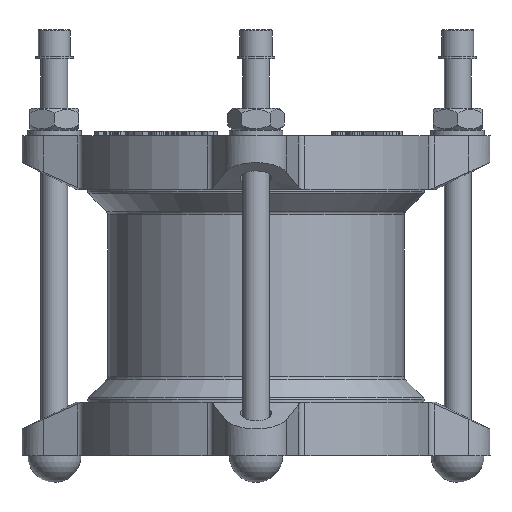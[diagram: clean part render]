
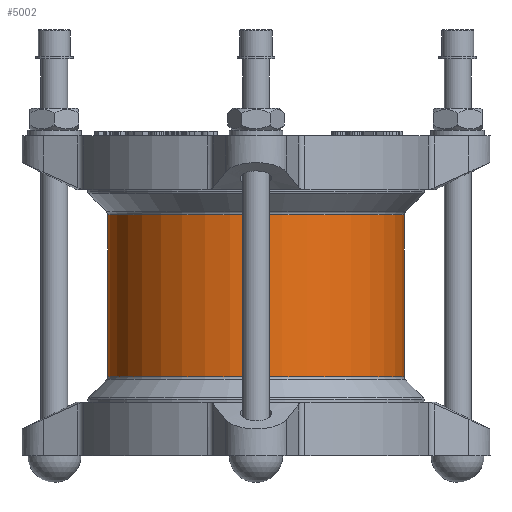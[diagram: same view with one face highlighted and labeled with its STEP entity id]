
A CAD part, front view. The second image highlights one B-rep face of the part: STEP entity #5002.
In plain terms, the highlighted cylindrical face has radius 66.5 mm (diameter 133 mm), a full revolution.
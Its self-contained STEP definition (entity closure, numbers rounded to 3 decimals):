
#5002=ADVANCED_FACE('',(#9311,#9313),#9315,.T.);
#9311=FACE_OUTER_BOUND('',#9312,.T.);
#9312=EDGE_LOOP('',(#13849));
#9313=FACE_OUTER_BOUND('',#9314,.T.);
#9314=EDGE_LOOP('',(#13850));
#9315=CYLINDRICAL_SURFACE('',#9316,66.5);
#9316=AXIS2_PLACEMENT_3D('',#9317,#9318,#9319);
#9317=CARTESIAN_POINT('',(0.,0.,37.172));
#9318=DIRECTION('',(0.,0.,-1.));
#9319=DIRECTION('',(0.,1.,0.));
#13849=ORIENTED_EDGE('',*,*,#15819,.T.);
#13850=ORIENTED_EDGE('',*,*,#15820,.F.);
#15819=EDGE_CURVE('',#18451,#18451,#18452,.T.);
#15820=EDGE_CURVE('',#18453,#18453,#18454,.T.);
#18451=VERTEX_POINT('',#26774);
#18452=CIRCLE('',#26775,66.5);
#18453=VERTEX_POINT('',#26779);
#18454=CIRCLE('',#26780,66.5);
#26774=CARTESIAN_POINT('',(0.,66.5,36.343));
#26775=AXIS2_PLACEMENT_3D('',#26776,#26777,#26778);
#26776=CARTESIAN_POINT('',(0.,0.,36.343));
#26777=DIRECTION('',(0.,0.,-1.));
#26778=DIRECTION('',(0.,1.,0.));
#26779=CARTESIAN_POINT('',(0.,66.5,-36.343));
#26780=AXIS2_PLACEMENT_3D('',#26781,#26782,#26783);
#26781=CARTESIAN_POINT('',(0.,0.,-36.343));
#26782=DIRECTION('',(0.,0.,-1.));
#26783=DIRECTION('',(0.,1.,0.));
